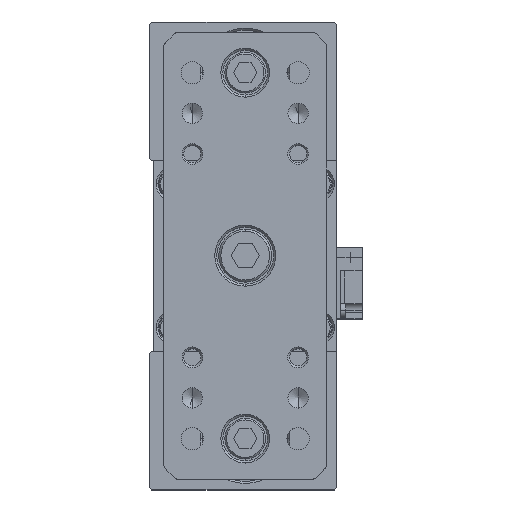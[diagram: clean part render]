
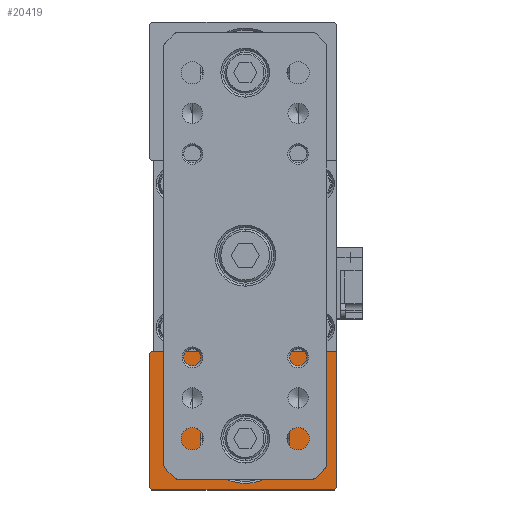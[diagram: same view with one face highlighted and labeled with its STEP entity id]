
A CAD part, top view. The second image highlights one B-rep face of the part: STEP entity #20419.
In plain terms, the highlighted planar face has unit normal (0, 0, 1).
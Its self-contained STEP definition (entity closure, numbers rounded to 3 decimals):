
#137 = CARTESIAN_POINT ( 'NONE',  ( 22.5, -23.5, 261. ) ) ;
#907 = CIRCLE ( 'NONE', #15889, 11. ) ;
#1242 = VERTEX_POINT ( 'NONE', #20601 ) ;
#2992 = AXIS2_PLACEMENT_3D ( 'NONE', #28509, #11327, #28607 ) ;
#3258 = CARTESIAN_POINT ( 'NONE',  ( -23.5, -24., 261. ) ) ;
#3417 = ORIENTED_EDGE ( 'NONE', *, *, #30232, .T. ) ;
#4964 = CARTESIAN_POINT ( 'NONE',  ( 22.5, -57.5, 261. ) ) ;
#5004 = CIRCLE ( 'NONE', #21502, 11. ) ;
#5698 = VERTEX_POINT ( 'NONE', #137 ) ;
#6084 = EDGE_CURVE ( 'NONE', #1242, #17429, #23756, .T. ) ;
#6306 = CARTESIAN_POINT ( 'NONE',  ( 22.5, -23.5, 261. ) ) ;
#6701 = EDGE_CURVE ( 'NONE', #24990, #7686, #907, .T. ) ;
#7686 = VERTEX_POINT ( 'NONE', #10467 ) ;
#8286 = LINE ( 'NONE', #8329, #19914 ) ;
#8329 = CARTESIAN_POINT ( 'NONE',  ( 22., -57.5, 261. ) ) ;
#8734 = PLANE ( 'NONE',  #2992 ) ;
#9570 = ORIENTED_EDGE ( 'NONE', *, *, #15427, .T. ) ;
#10059 = CARTESIAN_POINT ( 'NONE',  ( -23.5, -57.5, 261. ) ) ;
#10405 = CARTESIAN_POINT ( 'NONE',  ( -23., -57.5, 261. ) ) ;
#10467 = CARTESIAN_POINT ( 'NONE',  ( -11., -45., 261. ) ) ;
#10505 = CARTESIAN_POINT ( 'NONE',  ( 22.5, -57., 261. ) ) ;
#11125 = CARTESIAN_POINT ( 'NONE',  ( 22.5, -57.5, 261. ) ) ;
#11327 = DIRECTION ( 'NONE',  ( 0., 0., -1. ) ) ;
#11337 = VECTOR ( 'NONE', #28413, 1000. ) ;
#11409 = VERTEX_POINT ( 'NONE', #10405 ) ;
#12040 = CARTESIAN_POINT ( 'NONE',  ( -23.5, -24., 261. ) ) ;
#12062 = ORIENTED_EDGE ( 'NONE', *, *, #27717, .T. ) ;
#12712 = CARTESIAN_POINT ( 'NONE',  ( 0., -45., 261. ) ) ;
#13170 = VECTOR ( 'NONE', #31083, 1000. ) ;
#13207 = CARTESIAN_POINT ( 'NONE',  ( -23., -23.5, 261. ) ) ;
#13430 = CARTESIAN_POINT ( 'NONE',  ( -23., -57.5, 261. ) ) ;
#13473 = DIRECTION ( 'NONE',  ( 0., 0., -1. ) ) ;
#13691 = FACE_BOUND ( 'NONE', #15459, .T. ) ;
#13965 = VERTEX_POINT ( 'NONE', #13207 ) ;
#14928 = DIRECTION ( 'NONE',  ( -1., 0., 0. ) ) ;
#15232 = DIRECTION ( 'NONE',  ( -1., 0., 0. ) ) ;
#15398 = ORIENTED_EDGE ( 'NONE', *, *, #17463, .T. ) ;
#15427 = EDGE_CURVE ( 'NONE', #13965, #17429, #27761, .T. ) ;
#15459 = EDGE_LOOP ( 'NONE', ( #22947, #27630 ) ) ;
#15889 = AXIS2_PLACEMENT_3D ( 'NONE', #12712, #30029, #15232 ) ;
#16415 = VECTOR ( 'NONE', #24983, 1000. ) ;
#17429 = VERTEX_POINT ( 'NONE', #3258 ) ;
#17463 = EDGE_CURVE ( 'NONE', #20803, #23039, #8286, .T. ) ;
#17788 = ORIENTED_EDGE ( 'NONE', *, *, #6084, .F. ) ;
#18118 = EDGE_LOOP ( 'NONE', ( #3417, #9570, #17788, #12062, #21998, #15398, #29626 ) ) ;
#18926 = VECTOR ( 'NONE', #25864, 1000. ) ;
#19570 = CARTESIAN_POINT ( 'NONE',  ( 11., -45., 261. ) ) ;
#19716 = LINE ( 'NONE', #13430, #18926 ) ;
#19914 = VECTOR ( 'NONE', #25650, 1000. ) ;
#20287 = FACE_OUTER_BOUND ( 'NONE', #18118, .T. ) ;
#20419 = ADVANCED_FACE ( 'NONE', ( #13691, #20287 ), #8734, .F. ) ;
#20601 = CARTESIAN_POINT ( 'NONE',  ( -23.5, -57., 261. ) ) ;
#20803 = VERTEX_POINT ( 'NONE', #30012 ) ;
#20961 = LINE ( 'NONE', #4964, #25987 ) ;
#21502 = AXIS2_PLACEMENT_3D ( 'NONE', #28279, #13473, #30760 ) ;
#21771 = EDGE_CURVE ( 'NONE', #20803, #11409, #20961, .T. ) ;
#21998 = ORIENTED_EDGE ( 'NONE', *, *, #21771, .F. ) ;
#22765 = VECTOR ( 'NONE', #26845, 1000. ) ;
#22947 = ORIENTED_EDGE ( 'NONE', *, *, #6701, .T. ) ;
#23039 = VERTEX_POINT ( 'NONE', #10505 ) ;
#23650 = EDGE_CURVE ( 'NONE', #7686, #24990, #5004, .T. ) ;
#23756 = LINE ( 'NONE', #10059, #16415 ) ;
#24727 = EDGE_CURVE ( 'NONE', #23039, #5698, #28731, .T. ) ;
#24983 = DIRECTION ( 'NONE',  ( 0., 1., 0. ) ) ;
#24990 = VERTEX_POINT ( 'NONE', #19570 ) ;
#25650 = DIRECTION ( 'NONE',  ( 0.707, 0.707, 0. ) ) ;
#25864 = DIRECTION ( 'NONE',  ( 0.707, -0.707, 0. ) ) ;
#25987 = VECTOR ( 'NONE', #14928, 1000. ) ;
#26845 = DIRECTION ( 'NONE',  ( -0.707, -0.707, 0. ) ) ;
#27102 = LINE ( 'NONE', #6306, #13170 ) ;
#27630 = ORIENTED_EDGE ( 'NONE', *, *, #23650, .T. ) ;
#27717 = EDGE_CURVE ( 'NONE', #1242, #11409, #19716, .T. ) ;
#27761 = LINE ( 'NONE', #12040, #22765 ) ;
#28279 = CARTESIAN_POINT ( 'NONE',  ( 0., -45., 261. ) ) ;
#28413 = DIRECTION ( 'NONE',  ( 0., 1., 0. ) ) ;
#28509 = CARTESIAN_POINT ( 'NONE',  ( 22.5, -57.5, 261. ) ) ;
#28607 = DIRECTION ( 'NONE',  ( -1., 0., 0. ) ) ;
#28731 = LINE ( 'NONE', #11125, #11337 ) ;
#29626 = ORIENTED_EDGE ( 'NONE', *, *, #24727, .T. ) ;
#30012 = CARTESIAN_POINT ( 'NONE',  ( 22., -57.5, 261. ) ) ;
#30029 = DIRECTION ( 'NONE',  ( 0., 0., -1. ) ) ;
#30232 = EDGE_CURVE ( 'NONE', #5698, #13965, #27102, .T. ) ;
#30760 = DIRECTION ( 'NONE',  ( -1., 0., 0. ) ) ;
#31083 = DIRECTION ( 'NONE',  ( -1., 0., 0. ) ) ;
